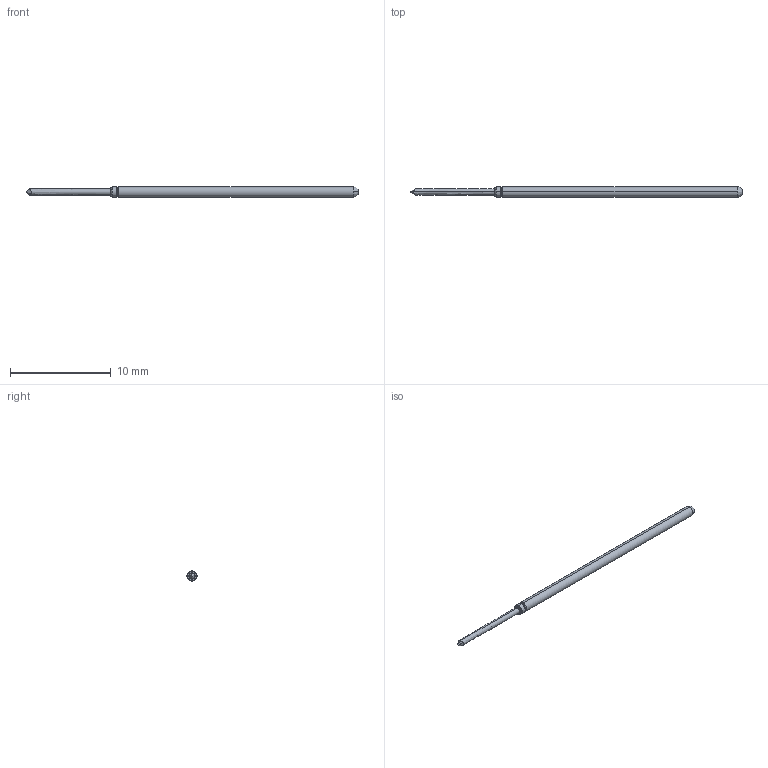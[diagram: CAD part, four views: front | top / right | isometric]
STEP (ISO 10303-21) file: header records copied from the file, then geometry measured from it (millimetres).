
FILE_DESCRIPTION (( 'STEP AP214' ), '1' );
FILE_NAME ('LF-LPA2I8.STEP', '2023-06-05T09:28:55', ( '' ), ( '' ), 'SwSTEP 2.0', 'SolidWorks 2022', '' );
FILE_SCHEMA (( 'AUTOMOTIVE_DESIGN' ));
Length unit declared in the file: inch
Products named in the file (1): LF-LPA2I8
Bounding box: 33.02 x 1.02 x 1.02 mm (x, y, z)
Volume: 22.2 mm3; surface area: 95.6 mm2
Topology: 2 solids, 2 shells, 25 faces, 50 edges, 29 vertices
Faces by surface type: bspline 16, plane 9
Entity records: 847 total; most frequent: CARTESIAN_POINT 379, ORIENTED_EDGE 100, DIRECTION 64, EDGE_CURVE 50, VERTEX_POINT 29, AXIS2_PLACEMENT_3D 28, EDGE_LOOP 25, FACE_OUTER_BOUND 25
